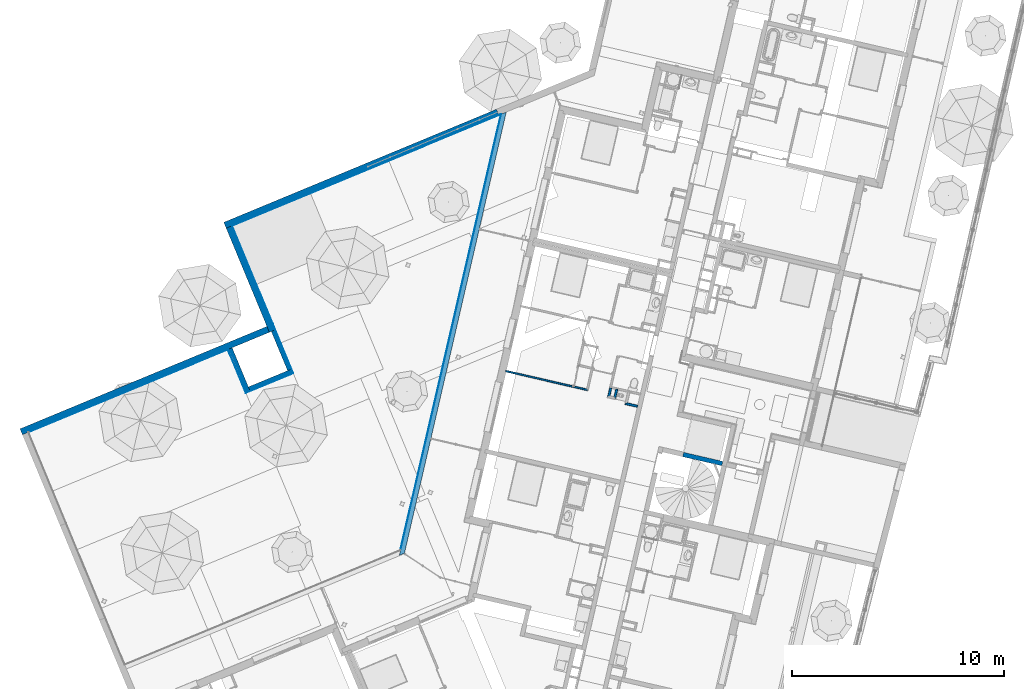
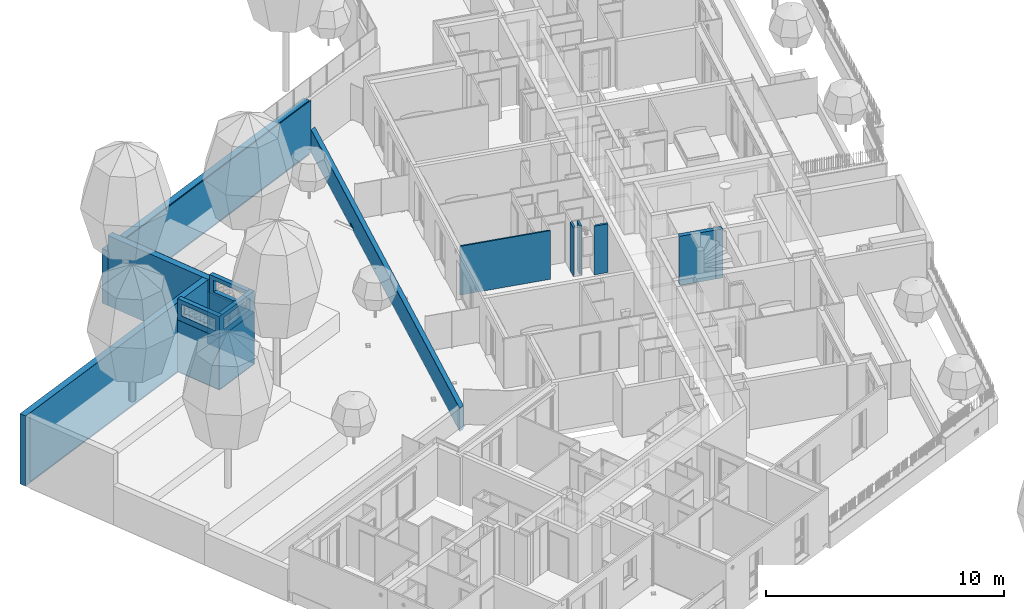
# One storey, part 46 of 119: 19 walls, 3 openings.
"""IFC2X3 building model written with IfcOpenShell, lengths in metres."""

from ifc_helpers import new_model, entity, si_unit, converted_unit, derived_unit, money_unit, direction, frame, origin_with_axes, place, context, subcontext, project, spatial, faceted_brep, material, material_list, type_object, element, save


model = new_model("IFC2X3")

# Units and contexts
model_context = context("Model", 3, precision=1e-05, world=origin_with_axes(), true_north=direction((0.0, 1.0)))
body_context = subcontext(model_context, "Body", "Model", "MODEL_VIEW")
ifc_project = project(units=[si_unit("LENGTHUNIT", "METRE"), si_unit("AREAUNIT", "SQUARE_METRE"), si_unit("VOLUMEUNIT", "CUBIC_METRE"), converted_unit("PLANEANGLEUNIT", "DEGREE", entity("IfcPlaneAngleMeasure", 0.0174532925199), si_unit("PLANEANGLEUNIT", "RADIAN"), dimensions=[0, 0, 0, 0, 0, 0, 0]), si_unit("SOLIDANGLEUNIT", "STERADIAN"), money_unit("EUR"), converted_unit("TIMEUNIT", "Year", entity("IfcTimeMeasure", 31556926.0), si_unit("TIMEUNIT", "SECOND"), dimensions=[0, 0, 1, 0, 0, 0, 0]), si_unit("MASSUNIT", "GRAM", prefix="KILO"), si_unit("THERMODYNAMICTEMPERATUREUNIT", "DEGREE_CELSIUS"), si_unit("LUMINOUSINTENSITYUNIT", "LUMEN"), si_unit("ENERGYUNIT", "JOULE", prefix="MEGA"), derived_unit("THERMALCONDUCTANCEUNIT", [(si_unit("POWERUNIT", "WATT"), 1), (si_unit("LENGTHUNIT", "METRE"), -1), (si_unit("THERMODYNAMICTEMPERATUREUNIT", "KELVIN"), -1)]), derived_unit("SPECIFICHEATCAPACITYUNIT", [(si_unit("ENERGYUNIT", "JOULE"), 1), (si_unit("MASSUNIT", "GRAM", prefix="KILO"), -1), (si_unit("THERMODYNAMICTEMPERATUREUNIT", "KELVIN"), -1)]), derived_unit("MASSDENSITYUNIT", [(si_unit("MASSUNIT", "GRAM", prefix="KILO"), 1), (si_unit("VOLUMEUNIT", "CUBIC_METRE"), -1)])], contexts=[model_context])

# Site, building, storey
site_placement = place(None, origin_with_axes())
site = spatial("IfcSite", under=ifc_project, at=site_placement, Name="Site", CompositionType="ELEMENT")
building_placement = place(site_placement, origin_with_axes())
building = spatial("IfcBuilding", under=site, at=building_placement, Name="Bâtiment", CompositionType="ELEMENT")
storey_placement = place(building_placement, origin_with_axes())
storey = spatial("IfcBuildingStorey", under=building, at=storey_placement, Name="Rez-de-chaussée", CompositionType="ELEMENT", Elevation=0.0)

# Walls
ifc_material_1 = material(Name="Béton")
wall_type_1 = type_object("IfcWallType", Name="Béton 300", PredefinedType="USERDEFINED")
wall_1_placement = place(storey_placement, frame((-28.8756217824, -0.212480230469, -0.03), z_axis=(0.0, 0.0, 1.0), x_axis=(-0.923701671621, -0.383112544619, 0.0)))
element("IfcWall", 1, at=wall_1_placement, inside=storey, type_object=wall_type_1, material=ifc_material_1, Name="Voile projeté béton par passes alternées", ObjectType="SOLIDWALL", context=body_context, shape_type="Brep", body=[
    faceted_brep([(0.30000038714, -0.3, 3.6), (12.9032672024, -0.3, 3.6), (12.9032672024, 0.0, 3.6), (0.3, 0.0, 3.6), (0.30000038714, -0.3, 0.0), (12.9032672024, -0.3, 0.0), (12.9032672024, 0.0, 0.0), (0.3, 0.0, 0.0)], [[[0, 1, 2, 3]], [[4, 5, 1, 0]], [[6, 2, 1, 5]], [[3, 2, 6, 7]], [[7, 4, 0, 3]], [[7, 6, 5, 4]]]),
])
wall_2_placement = place(storey_placement, frame((-30.9110132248, 4.69492269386, -0.03), z_axis=(0.0, 0.0, 1.0), x_axis=(0.383113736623, -0.923701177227, 0.0)))
element("IfcWall", 2, at=wall_2_placement, inside=storey, type_object=wall_type_1, material=ifc_material_1, Name="Voile projeté béton par passes alternées", ObjectType="SOLIDWALL", context=body_context, shape_type="Brep", body=[
    faceted_brep([(5.31276027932, 0.0, 3.6), (5.31276027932, 0.0, 0.0), (0.0, 0.0, 0.0), (0.0, 0.0, 2.8), (0.0, 0.0, 3.6), (5.31275989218, -0.3, 3.6), (5.31275989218, -0.3, 0.0), (-2.42320261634e-08, -0.3, 0.0), (-2.42320261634e-08, -0.3, 2.8), (0.0, -0.3, 3.6)], [[[0, 1, 2, 3, 4]], [[5, 6, 1, 0]], [[1, 6, 7, 2]], [[2, 7, 8, 3]], [[9, 4, 3, 8]], [[9, 5, 0, 4]], [[5, 9, 8, 7, 6]]]),
])
wall_3_placement = place(storey_placement, frame((-30.9110132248, 4.69492269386, -0.03), z_axis=(0.0, 0.0, 1.0), x_axis=(0.923701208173, 0.383113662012, 0.0)))
element("IfcWall", 3, at=wall_3_placement, inside=storey, type_object=wall_type_1, material=ifc_material_1, Name="Voile projeté béton par passes alternées", ObjectType="SOLIDWALL", context=body_context, shape_type="Brep", body=[
    faceted_brep([(-0.300000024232, 0.3, 0.0), (13.616509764, 0.3, 0.0), (13.616509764, 0.0, 0.0), (-0.3, 0.0, 0.0), (-0.300000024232, 0.3, 2.8), (13.616509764, 0.3, 2.8), (13.616509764, 0.0, 2.8), (-0.3, 0.0, 2.8)], [[[0, 1, 2, 3]], [[4, 5, 1, 0]], [[2, 1, 5, 6]], [[3, 2, 6, 7]], [[4, 0, 3, 7]], [[7, 6, 5, 4]]]),
])
ifc_material_2 = material(Name="Finition int - Plaque de plâtre")
ifc_material_3 = material(Name="Isolation - Laine de roche")
ifc_material_list_1 = material_list([ifc_material_2, ifc_material_3, ifc_material_2])
wall_type_2 = type_object("IfcWallType", Name="3 - Cloison 72mm Placostil 74", PredefinedType="USERDEFINED")
wall_4_placement = place(storey_placement, frame((-14.1354559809, -3.08704775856, 0.0), z_axis=(0.0, 0.0, 1.0), x_axis=(-0.974387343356, 0.224876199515, 0.0)))
element("IfcWall", 4, at=wall_4_placement, inside=storey, type_object=wall_type_2, material=ifc_material_list_1, Name="Cloison Placostil 72/48", ObjectType="PARTITIONING", context=body_context, shape_type="Brep", body=[
    faceted_brep([(0.0, -0.013, 2.5), (3.98328995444, -0.013, 2.5), (3.98328995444, 0.0, 2.5), (0.0, 0.0, 2.5), (0.0, -0.013, 0.0), (3.98328995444, -0.013, 0.0), (3.98328995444, 0.0, 0.0), (0.0, 0.0, 0.0)], [[[0, 1, 2, 3]], [[4, 5, 1, 0]], [[2, 1, 5, 6]], [[3, 2, 6, 7]], [[4, 0, 3, 7]], [[7, 6, 5, 4]]]),
    faceted_brep([(0.0129999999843, -0.061, 2.5), (3.98328995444, -0.061, 2.5), (3.98328995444, -0.013, 2.5), (0.0129999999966, -0.013, 2.5), (0.0129999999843, -0.061, 0.0), (3.98328995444, -0.061, 0.0), (3.98328995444, -0.013, 0.0), (0.0129999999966, -0.013, 0.0)], [[[0, 1, 2, 3]], [[4, 5, 1, 0]], [[2, 1, 5, 6]], [[3, 2, 6, 7]], [[4, 0, 3, 7]], [[7, 6, 5, 4]]]),
    faceted_brep([(0.735000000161, -0.074, 2.5), (3.98328995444, -0.074, 2.5), (3.98328995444, -0.061, 2.5), (0.735000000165, -0.061, 2.5), (0.735000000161, -0.074, 0.0), (3.98328995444, -0.074, 0.0), (3.98328995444, -0.061, 0.0), (0.735000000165, -0.061, 0.0)], [[[0, 1, 2, 3]], [[4, 5, 1, 0]], [[2, 1, 5, 6]], [[3, 2, 6, 7]], [[4, 0, 3, 7]], [[7, 6, 5, 4]]]),
    faceted_brep([(0.687000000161, -0.074, 2.5), (0.687000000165, -0.061, 2.5), (0.0609999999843, -0.061, 2.5), (0.0609999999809, -0.074, 2.5), (0.687000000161, -0.074, 0.0), (0.687000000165, -0.061, 0.0), (0.0609999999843, -0.061, 0.0), (0.0609999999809, -0.074, 0.0)], [[[0, 1, 2, 3]], [[1, 0, 4, 5]], [[1, 5, 6, 2]], [[7, 3, 2, 6]], [[4, 0, 3, 7]], [[5, 4, 7, 6]]]),
])
ifc_material_list_2 = material_list([ifc_material_2, ifc_material_2, ifc_material_3, ifc_material_2, ifc_material_2])
wall_type_3 = type_object("IfcWallType", Name="3 - Cloison Gaine Technique 98mm 100", PredefinedType="USERDEFINED")
wall_5_placement = place(storey_placement, frame((-13.1110577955, -2.94857065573, 0.0), z_axis=(0.0, 0.0, 1.0), x_axis=(-0.224876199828, -0.974387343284, 0.0)))
element("IfcWall", 5, at=wall_5_placement, inside=storey, type_object=wall_type_3, material=ifc_material_list_2, Name="Cloison 98 isolée", ObjectType="PARTITIONING", context=body_context, shape_type="Brep", body=[
    faceted_brep([(0.367186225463, 0.087, 0.0), (0.0, 0.087, 0.0), (0.0, 0.1, 0.0), (0.367186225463, 0.1, 0.0), (0.367186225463, 0.087, 2.5), (0.0, 0.087, 2.5), (0.0, 0.1, 2.5), (0.367186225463, 0.1, 2.5)], [[[0, 1, 2, 3]], [[4, 5, 1, 0]], [[1, 5, 6, 2]], [[3, 2, 6, 7]], [[7, 4, 0, 3]], [[7, 6, 5, 4]]]),
    faceted_brep([(0.380186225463, 0.074, 0.0), (0.0, 0.074, 0.0), (0.0, 0.087, 0.0), (0.380186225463, 0.087, 0.0), (0.380186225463, 0.074, 2.5), (0.0, 0.074, 2.5), (0.0, 0.087, 2.5), (0.380186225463, 0.087, 2.5)], [[[0, 1, 2, 3]], [[4, 5, 1, 0]], [[1, 5, 6, 2]], [[3, 2, 6, 7]], [[7, 4, 0, 3]], [[7, 6, 5, 4]]]),
    faceted_brep([(0.393186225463, 0.026, 0.0), (0.0, 0.026, 0.0), (0.0, 0.074, 0.0), (0.393186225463, 0.074, 0.0), (0.393186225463, 0.026, 2.5), (0.0, 0.026, 2.5), (0.0, 0.074, 2.5), (0.393186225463, 0.074, 2.5)], [[[0, 1, 2, 3]], [[4, 5, 1, 0]], [[1, 5, 6, 2]], [[3, 2, 6, 7]], [[7, 4, 0, 3]], [[7, 6, 5, 4]]]),
    faceted_brep([(0.0, 0.013, 0.0), (0.0, 0.026, 0.0), (0.441186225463, 0.026, 0.0), (0.441186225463, 0.013, 0.0), (0.0, 0.013, 2.5), (0.0, 0.026, 2.5), (0.441186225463, 0.026, 2.5), (0.441186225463, 0.013, 2.5)], [[[0, 1, 2, 3]], [[4, 5, 1, 0]], [[1, 5, 6, 2]], [[7, 3, 2, 6]], [[4, 0, 3, 7]], [[5, 4, 7, 6]]]),
    faceted_brep([(0.0, 0.0, 0.0), (0.0, 0.013, 0.0), (0.454186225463, 0.013, 0.0), (0.454186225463, 0.0, 0.0), (0.0, 0.0, 2.5), (0.0, 0.013, 2.5), (0.454186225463, 0.013, 2.5), (0.454186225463, 0.0, 2.5)], [[[0, 1, 2, 3]], [[4, 5, 1, 0]], [[1, 5, 6, 2]], [[7, 3, 2, 6]], [[4, 0, 3, 7]], [[5, 4, 7, 6]]]),
])
wall_6_placement = place(storey_placement, frame((-12.837976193, -3.49106105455, 0.0), z_axis=(0.0, 0.0, 1.0), x_axis=(0.236989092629, 0.971512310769, 0.0)))
element("IfcWall", 6, at=wall_6_placement, inside=storey, type_object=wall_type_3, material=ifc_material_list_2, Name="Cloison 98 isolée", ObjectType="PARTITIONING", context=body_context, shape_type="Brep", body=[
    faceted_brep([(0.465977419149, 0.1, 0.0), (0.466139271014, 0.087, 0.0), (0.0989245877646, 0.087, 0.0), (0.0987627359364, 0.1, 0.0), (0.465977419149, 0.1, 2.5), (0.466139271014, 0.087, 2.5), (0.0989245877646, 0.087, 2.5), (0.0987627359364, 0.1, 2.5)], [[[0, 1, 2, 3]], [[1, 0, 4, 5]], [[1, 5, 6, 2]], [[7, 3, 2, 6]], [[4, 0, 3, 7]], [[5, 4, 7, 6]]]),
    faceted_brep([(0.479140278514, 0.087, 0.0), (0.479302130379, 0.074, 0.0), (0.0860854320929, 0.074, 0.0), (0.0859235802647, 0.087, 0.0), (0.479140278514, 0.087, 2.5), (0.479302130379, 0.074, 2.5), (0.0860854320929, 0.074, 2.5), (0.0859235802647, 0.087, 2.5)], [[[0, 1, 2, 3]], [[1, 0, 4, 5]], [[1, 5, 6, 2]], [[7, 3, 2, 6]], [[4, 0, 3, 7]], [[5, 4, 7, 6]]]),
    faceted_brep([(0.479302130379, 0.074, 0.0), (0.479899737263, 0.026, 0.0), (0.0736820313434, 0.026, 0.0), (0.0730844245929, 0.074, 0.0), (0.479302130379, 0.074, 2.5), (0.479899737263, 0.026, 2.5), (0.0736820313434, 0.026, 2.5), (0.0730844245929, 0.074, 2.5)], [[[0, 1, 2, 3]], [[1, 0, 4, 5]], [[1, 5, 6, 2]], [[7, 3, 2, 6]], [[4, 0, 3, 7]], [[5, 4, 7, 6]]]),
    faceted_brep([(0.479899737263, 0.026, 0.0), (0.480061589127, 0.013, 0.0), (0.0258401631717, 0.013, 0.0), (0.0256783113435, 0.026, 0.0), (0.479899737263, 0.026, 2.5), (0.480061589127, 0.013, 2.5), (0.0258401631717, 0.013, 2.5), (0.0256783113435, 0.026, 2.5)], [[[0, 1, 2, 3]], [[1, 0, 4, 5]], [[1, 5, 6, 2]], [[7, 3, 2, 6]], [[4, 0, 3, 7]], [[5, 4, 7, 6]]]),
    faceted_brep([(0.467060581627, 0.013, 0.0), (0.467222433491, 0.0, 0.0), (0.0130010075, 0.0, 0.0), (0.0128391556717, 0.013, 0.0), (0.467060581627, 0.013, 2.5), (0.467222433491, 0.0, 2.5), (0.0130010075, 0.0, 2.5), (0.0128391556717, 0.013, 2.5)], [[[0, 1, 2, 3]], [[1, 0, 4, 5]], [[1, 5, 6, 2]], [[7, 3, 2, 6]], [[4, 0, 3, 7]], [[5, 4, 7, 6]]]),
])
wall_7_placement = place(storey_placement, frame((-11.808762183, -3.86489545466, 0.0), z_axis=(0.0, 0.0, 1.0), x_axis=(-0.974387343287, 0.224876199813, 0.0)))
element("IfcWall", 7, at=wall_7_placement, inside=storey, type_object=wall_type_3, material=ifc_material_list_2, Name="Cloison 98 isolée", ObjectType="PARTITIONING", context=body_context, shape_type="Brep", body=[
    faceted_brep([(0.599999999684, -0.013, 2.5), (0.599999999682, 0.0, 2.5), (0.0, 0.0, 2.5), (0.0, -0.013, 2.5), (0.599999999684, -0.013, 0.0), (0.599999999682, 0.0, 0.0), (0.0, 0.0, 0.0), (0.0, -0.013, 0.0)], [[[0, 1, 2, 3]], [[1, 0, 4, 5]], [[1, 5, 6, 2]], [[7, 3, 2, 6]], [[4, 0, 3, 7]], [[5, 4, 7, 6]]]),
    faceted_brep([(0.586999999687, -0.026, 2.5), (0.586999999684, -0.013, 2.5), (0.0, -0.013, 2.5), (0.0, -0.026, 2.5), (0.586999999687, -0.026, 0.0), (0.586999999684, -0.013, 0.0), (0.0, -0.013, 0.0), (0.0, -0.026, 0.0)], [[[0, 1, 2, 3]], [[1, 0, 4, 5]], [[1, 5, 6, 2]], [[7, 3, 2, 6]], [[4, 0, 3, 7]], [[5, 4, 7, 6]]]),
    faceted_brep([(0.573999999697, -0.074, 2.5), (0.573999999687, -0.026, 2.5), (0.0, -0.026, 2.5), (0.0, -0.074, 2.5), (0.573999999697, -0.074, 0.0), (0.573999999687, -0.026, 0.0), (0.0, -0.026, 0.0), (0.0, -0.074, 0.0)], [[[0, 1, 2, 3]], [[1, 0, 4, 5]], [[1, 5, 6, 2]], [[7, 3, 2, 6]], [[4, 0, 3, 7]], [[5, 4, 7, 6]]]),
    faceted_brep([(0.5259999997, -0.087, 2.5), (0.525999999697, -0.074, 2.5), (0.0, -0.074, 2.5), (0.0, -0.087, 2.5), (0.5259999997, -0.087, 0.0), (0.525999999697, -0.074, 0.0), (0.0, -0.074, 0.0), (0.0, -0.087, 0.0)], [[[0, 1, 2, 3]], [[1, 0, 4, 5]], [[1, 5, 6, 2]], [[7, 3, 2, 6]], [[4, 0, 3, 7]], [[5, 4, 7, 6]]]),
    faceted_brep([(0.512999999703, -0.1, 2.5), (0.5129999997, -0.087, 2.5), (0.0, -0.087, 2.5), (0.0, -0.1, 2.5), (0.512999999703, -0.1, 0.0), (0.5129999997, -0.087, 0.0), (0.0, -0.087, 0.0), (0.0, -0.1, 0.0)], [[[0, 1, 2, 3]], [[1, 0, 4, 5]], [[1, 5, 6, 2]], [[7, 3, 2, 6]], [[4, 0, 3, 7]], [[5, 4, 7, 6]]]),
])
ifc_material_4 = material(Name="Finition int - Enduit plâtre")
ifc_material_list_3 = material_list([ifc_material_4, ifc_material_1])
wall_type_4 = type_object("IfcWallType", Name="2 - Murs Béton 20 + Enduit 1 Face  210", PredefinedType="USERDEFINED")
wall_8_placement = place(storey_placement, frame((-7.77362621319, -6.41391833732, 0.0), z_axis=(0.0, 0.0, 1.0), x_axis=(-0.974387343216, 0.224876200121, 0.0)))
element("IfcWall", 8, at=wall_8_placement, inside=storey, type_object=wall_type_4, material=ifc_material_list_3, Name="M_Ext-009", ObjectType="SOLIDWALL", context=body_context, shape_type="Brep", body=[
    faceted_brep([(0.309940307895, 0.21, 0.0), (0.317079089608, 0.2, 0.0), (0.0, 0.2, 0.0), (0.0, 0.21, 0.0), (0.309940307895, 0.21, 2.52), (0.317079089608, 0.2, 2.52), (0.0, 0.2, 2.52), (0.0, 0.21, 2.52)], [[[0, 1, 2, 3]], [[1, 0, 4, 5]], [[1, 5, 6, 2]], [[7, 3, 2, 6]], [[4, 0, 3, 7]], [[5, 4, 7, 6]]]),
    faceted_brep([(0.400861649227, 0.21, 0.0), (1.90000000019, 0.21, 0.0), (1.90000000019, 0.2, 0.0), (0.408000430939, 0.2, 0.0), (0.400861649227, 0.21, 2.52), (1.90000000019, 0.21, 2.52), (1.90000000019, 0.2, 2.52), (0.408000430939, 0.2, 2.52)], [[[0, 1, 2, 3]], [[4, 5, 1, 0]], [[2, 1, 5, 6]], [[3, 2, 6, 7]], [[4, 0, 3, 7]], [[7, 6, 5, 4]]]),
    faceted_brep([(1.90000000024, 6.38959996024e-10, 2.51), (1.01006314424e-10, 0.0, 2.51), (0.0, 0.0, 0.0), (1.90000000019, 0.0, 0.0), (1.90000000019, 0.199999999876, 2.51), (0.0, 0.199999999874, 2.51), (0.0, 0.2, 0.0), (1.90000000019, 0.2, 0.0)], [[[0, 1, 2, 3]], [[1, 0, 4, 5]], [[1, 5, 6, 2]], [[6, 7, 3, 2]], [[4, 0, 3, 7]], [[4, 7, 6, 5]]]),
])

# Wall, opening
ifc_material_list_4 = material_list([ifc_material_1, ifc_material_4])
wall_9_placement = place(storey_placement, frame((-30.9077654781, -1.0553278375, -0.03), z_axis=(0.0, 0.0, 1.0), x_axis=(0.383112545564, -0.923701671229, 0.0)))
wall_9 = element("IfcWall", 9, at=wall_9_placement, inside=storey, type_object=wall_type_4, material=ifc_material_list_4, Name="Voile béton banché 20cm", ObjectType="SOLIDWALL", context=body_context, shape_type="Brep", body=[
    faceted_brep([(2.2, -0.2, 0.03), (2.2, 0.0, 0.03), (2.2, 0.0, 3.8), (2.2, -0.2, 3.8), (2.0, 0.0, 0.03), (-2.12561879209e-09, -0.2, 0.03), (0.0, 0.0, 0.03), (-1.21661081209e-09, 0.0, 3.6), (0.0, 0.0, 3.80000000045), (2.0, 0.0, 3.59035323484), (0.2, 0.0, 3.59035323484), (0.2, 0.0, 2.99035323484), (2.0, 0.0, 2.99035323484), (0.0, -0.2, 3.80000000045), (-1.42110323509e-09, -0.2, 3.6), (2.0, -0.2, 3.59035323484), (2.0, -0.2, 2.99035323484), (0.2, -0.2, 2.99035323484), (0.2, -0.2, 3.59035323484)], [[[0, 1, 2, 3]], [[4, 1, 0, 5, 6]], [[4, 6, 7, 8, 2, 1], [9, 10, 11, 12]], [[13, 3, 2, 8]], [[5, 0, 3, 13, 14], [15, 16, 17, 18]], [[6, 5, 14, 7]], [[8, 7, 14, 13]], [[15, 18, 10, 9]], [[18, 17, 11, 10]], [[17, 16, 12, 11]], [[16, 15, 9, 12]]]),
    faceted_brep([(2.21, -0.21, 0.03), (2.21, -0.2, 0.03), (2.21, -0.2, 3.8), (2.21, -0.21, 3.8), (-2.12561879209e-09, -0.2, 0.03), (-2.23189822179e-09, -0.21, 0.03), (-1.42110323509e-09, -0.2, 3.6), (0.0, -0.2, 3.80000000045), (2.0, -0.2, 3.59035323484), (0.2, -0.2, 3.59035323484), (0.2, -0.2, 2.99035323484), (2.0, -0.2, 2.99035323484), (0.0, -0.21, 3.80000000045), (-1.4313261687e-09, -0.21, 3.6), (2.0, -0.21, 3.59035323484), (2.0, -0.21, 2.99035323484), (0.2, -0.21, 2.99035323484), (0.2, -0.21, 3.59035323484)], [[[0, 1, 2, 3]], [[4, 1, 0, 5]], [[1, 4, 6, 7, 2], [8, 9, 10, 11]], [[2, 7, 12, 3]], [[5, 0, 3, 12, 13], [14, 15, 16, 17]], [[4, 5, 13, 6]], [[7, 6, 13, 12]], [[14, 17, 9, 8]], [[17, 16, 10, 9]], [[16, 15, 11, 10]], [[15, 14, 8, 11]]]),
])
opening_1_placement = place(wall_9_placement, frame((10.8663446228, 28.9538639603, 0.03), z_axis=(0.0, 0.0, 1.0), x_axis=(0.383112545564, 0.923701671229, 0.0)))
element("IfcOpeningElement", 10, at=opening_1_placement, cuts=wall_9, Name="PERCEMENT-004", context=body_context, shape_type="Brep", body=[
    faceted_brep([(-32.0619452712, -1.75055312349, 2.96035323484), (-32.0619452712, -1.75055312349, 3.56035323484), (-29.1813379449, -0.555798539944, 3.56035323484), (-29.1813379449, -0.555798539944, 2.96035323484), (-32.0619452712, -3.69923423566, 2.96035323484), (-32.0619452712, -3.69923423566, 3.56035323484), (-29.1813379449, -2.50447965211, 3.56035323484), (-29.1813379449, -2.50447965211, 2.96035323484)], [[[0, 1, 2, 3]], [[0, 4, 5, 1]], [[1, 5, 6, 2]], [[3, 2, 6, 7]], [[4, 0, 3, 7]], [[5, 4, 7, 6]]]),
])

wall_10_placement = place(storey_placement, frame((-30.141540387, -2.90273117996, -0.03), z_axis=(0.0, 0.0, 1.0), x_axis=(0.923701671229, 0.383112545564, 0.0)))
wall_10 = element("IfcWall", 11, at=wall_10_placement, inside=storey, type_object=wall_type_4, material=ifc_material_list_4, Name="Voile béton banché 20cm", ObjectType="SOLIDWALL", context=body_context, shape_type="Brep", body=[
    faceted_brep([(0.0, -0.2, 0.03), (2.2, -0.2, 0.03), (2.2, -0.2, 3.8), (0.0, -0.2, 3.8), (1.89999756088, -0.2, 3.60000387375), (1.89999756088, -0.2, 3.00000387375), (0.0999975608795, -0.2, 3.00000387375), (0.0999975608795, -0.2, 3.60000387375), (2.2, 0.0, 0.03), (0.0, 0.0, 0.03), (2.0, 0.0, 0.03), (2.2, 0.0, 3.80000000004), (0.0, 0.0, 3.80000000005), (1.89999756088, 0.0, 3.60000387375), (1.89999756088, 0.0, 3.00000387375), (0.0999975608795, 0.0, 3.00000387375), (0.0999975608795, 0.0, 3.60000387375)], [[[0, 1, 2, 3], [4, 5, 6, 7]], [[8, 1, 0, 9, 10]], [[1, 8, 11, 2]], [[3, 2, 11, 12]], [[9, 0, 3, 12]], [[13, 14, 5, 4]], [[14, 15, 6, 5]], [[15, 16, 7, 6]], [[16, 13, 4, 7]], [[10, 9, 12, 11, 8], [13, 16, 15, 14]]]),
    faceted_brep([(-0.2, -0.21, 0.03), (2.21, -0.21, 0.03), (2.21, -0.21, 3.8), (-0.2, -0.21, 3.8), (1.89999756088, -0.21, 3.60000387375), (1.89999756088, -0.21, 3.00000387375), (0.0999975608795, -0.21, 3.00000387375), (0.0999975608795, -0.21, 3.60000387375), (2.21, -0.2, 0.03), (-0.2, -0.2, 0.03), (2.21, -0.2, 3.8), (-0.2, -0.2, 3.8), (1.89999756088, -0.2, 3.60000387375), (1.89999756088, -0.2, 3.00000387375), (0.0999975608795, -0.2, 3.00000387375), (0.0999975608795, -0.2, 3.60000387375)], [[[0, 1, 2, 3], [4, 5, 6, 7]], [[8, 1, 0, 9]], [[1, 8, 10, 2]], [[10, 11, 3, 2]], [[9, 0, 3, 11]], [[12, 13, 5, 4]], [[13, 14, 6, 5]], [[14, 15, 7, 6]], [[15, 12, 4, 7]], [[8, 9, 11, 10], [12, 15, 14, 13]]]),
])
opening_2_placement = place(wall_10_placement, frame((28.9538639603, -8.86634462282, 0.03), z_axis=(0.0, 0.0, 1.0), x_axis=(0.923701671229, -0.383112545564, 0.0)))
element("IfcOpeningElement", 12, at=opening_2_placement, cuts=wall_10, Name="PERCEMENT-004", context=body_context, shape_type="Brep", body=[
    faceted_brep([(-29.5545778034, -4.056910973, 2.97000387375), (-29.5545778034, -4.056910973, 3.57000387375), (-30.7493323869, -1.17630364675, 3.57000387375), (-30.7493323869, -1.17630364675, 2.97000387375), (-27.6058966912, -4.056910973, 2.97000387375), (-27.6058966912, -4.056910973, 3.57000387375), (-28.8006512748, -1.17630364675, 3.57000387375), (-28.8006512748, -1.17630364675, 2.97000387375)], [[[0, 1, 2, 3]], [[0, 4, 5, 1]], [[1, 5, 6, 2]], [[3, 2, 6, 7]], [[4, 0, 3, 7]], [[5, 4, 7, 6]]]),
])

wall_11_placement = place(storey_placement, frame((-28.2941370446, -2.13650608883, -0.03), z_axis=(0.0, 0.0, 1.0), x_axis=(-0.383112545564, 0.923701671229, 0.0)))
wall_11 = element("IfcWall", 13, at=wall_11_placement, inside=storey, type_object=wall_type_4, material=ifc_material_list_4, Name="Voile béton banché 20cm", ObjectType="SOLIDWALL", context=body_context, shape_type="Brep", body=[
    faceted_brep([(0.0, 0.0, 0.0299999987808), (0.0, -0.2, 0.0299999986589), (0.0, -0.2, 2.99035323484), (0.0, 0.0, 2.99035323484), (1.99999999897, -0.200000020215, 0.03), (2.0, 0.0, 0.03), (1.99999999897, -0.200000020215, 3.6), (2.0, -0.2, 3.80000000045), (0.0, -0.2, 3.8), (0.0, -0.2, 3.59035323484), (1.80000001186, -0.2, 3.59035323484), (1.80000001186, -0.2, 2.99035323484), (1.80000001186, 0.0, 2.99035323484), (1.80000001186, 0.0, 3.59035323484), (0.0, 0.0, 3.59035323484), (0.0, 0.0, 3.8), (2.0, 0.0, 3.80000000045), (1.99999999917, 0.0, 3.6)], [[[0, 1, 2, 3]], [[4, 1, 0, 5]], [[1, 4, 6, 7, 8, 9, 10, 11, 2]], [[12, 3, 2, 11]], [[5, 0, 3, 12, 13, 14, 15, 16, 17]], [[4, 5, 17, 6]], [[7, 6, 17, 16]], [[16, 15, 8, 7]], [[14, 9, 8, 15]], [[10, 9, 14, 13]], [[13, 12, 11, 10]]]),
    faceted_brep([(1.99999999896, -0.21, 0.12), (2.29999999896, -0.21, 0.12), (2.29999999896, -0.21, 3.0), (2.29999999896, -0.21, 3.53), (2.29999999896, -0.21, 3.6), (2.0, -0.21, 3.6), (2.0, -0.21, 3.80000000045), (-0.2, -0.21, 3.8), (-0.2, -0.21, 0.0299999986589), (1.99999999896, -0.21, 0.03), (1.99999999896, -0.21, 0.04), (1.18561160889e-08, -0.21, 3.59035323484), (1.80000001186, -0.21, 3.59035323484), (1.80000001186, -0.21, 2.99035323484), (1.18561160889e-08, -0.21, 2.99035323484), (1.99999999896, -0.207060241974, 0.12), (2.29999999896, -0.206661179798, 0.12), (2.29999999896, -0.206661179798, 0.04), (2.29999999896, -0.206661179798, 0.03), (2.29999999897, -0.199999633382, 0.0299999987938), (2.29999999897, -0.2, 3.0), (2.29999999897, -0.2, 3.53), (2.29999999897, -0.2, 3.6), (2.0, -0.2, 3.6), (2.0, -0.2, 3.80000000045), (-0.2, -0.2, 3.8), (-0.2, -0.2, 0.0299999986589), (1.99999999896, -0.207060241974, 0.03), (1.99999999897, -0.200000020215, 0.03), (2.00476189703, -0.200000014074, 0.0299999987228), (2.001400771, -0.207058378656, 0.03), (1.99999999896, -0.207060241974, 0.04), (1.18561160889e-08, -0.2, 3.59035323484), (1.80000001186, -0.2, 3.59035323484), (1.80000001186, -0.2, 2.99035323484), (1.18561160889e-08, -0.2, 2.99035323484)], [[[0, 1, 2, 3, 4, 5, 6, 7, 8, 9, 10], [11, 12, 13, 14]], [[1, 0, 15, 16]], [[16, 17, 18, 19, 20, 2, 1]], [[3, 2, 20, 21]], [[4, 3, 21, 22]], [[22, 23, 5, 4]], [[6, 5, 23, 24]], [[24, 25, 7, 6]], [[26, 8, 7, 25]], [[27, 9, 8, 26, 28, 29, 30]], [[31, 10, 9, 27]], [[0, 10, 31, 15]], [[32, 33, 12, 11]], [[33, 34, 13, 12]], [[34, 35, 14, 13]], [[35, 32, 11, 14]], [[31, 17, 16, 15]], [[17, 31, 27, 30, 18]], [[18, 30, 29, 19]], [[19, 29, 28, 26, 25, 24, 23, 22, 21, 20], [32, 35, 34, 33]]]),
])
opening_3_placement = place(wall_11_placement, frame((-8.86634462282, -26.9538639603, 0.03), z_axis=(0.0, 0.0, 1.0), x_axis=(-0.383112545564, -0.923701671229, 0.0)))
element("IfcOpeningElement", 14, at=opening_3_placement, cuts=wall_11, Name="PERCEMENT-004", context=body_context, shape_type="Brep", body=[
    faceted_brep([(-27.1399572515, -1.65780091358, 2.96035323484), (-27.1399572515, -1.65780091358, 3.56035323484), (-30.0205645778, -2.85255549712, 3.56035323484), (-30.0205645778, -2.85255549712, 2.96035323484), (-27.1399572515, 0.290880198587, 2.96035323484), (-27.1399572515, 0.290880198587, 3.56035323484), (-30.0205645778, -0.90387438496, 3.56035323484), (-30.0205645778, -0.90387438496, 2.96035323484)], [[[0, 1, 2, 3]], [[0, 4, 5, 1]], [[1, 5, 6, 2]], [[3, 2, 6, 7]], [[4, 0, 3, 7]], [[5, 4, 7, 6]]]),
])

# Walls
ifc_material_5 = material(Name="Finition ext - Crépis")
ifc_material_list_5 = material_list([ifc_material_5, ifc_material_1])
wall_type_5 = type_object("IfcWallType", Name="1 - Mur BETON 20+ ravalement 1 face 215", PredefinedType="ELEMENTEDWALL")
wall_12_placement = place(storey_placement, frame((-17.9813232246, 10.0576318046, 0.0), z_axis=(0.0, 0.0, 1.0), x_axis=(-0.224876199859, -0.974387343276, 0.0)))
element("IfcWall", 15, at=wall_12_placement, inside=storey, type_object=wall_type_5, material=ifc_material_list_5, Name="M_Ext-010", ObjectType="ELEMENTEDWALL", context=body_context, shape_type="Brep", body=[
    faceted_brep([(0.0, 0.0, 1.2), (0.0107081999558, -0.015, 1.2), (21.3792029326, -0.015, 1.2), (21.36849476, 0.0, 1.2), (0.0, 0.0, 0.0), (0.0107081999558, -0.015, 0.0), (21.3792029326, -0.015, 0.0), (21.36849476, 0.0, 0.0)], [[[0, 1, 2, 3]], [[0, 4, 5, 1]], [[1, 5, 6, 2]], [[6, 7, 3, 2]], [[4, 0, 3, 7]], [[5, 4, 7, 6]]]),
    faceted_brep([(6.23067241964, -0.215, 0.0), (6.27645261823, -0.182318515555, 0.0), (6.16024891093, -0.01954045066, 0.0), (5.88644932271, -0.215, 0.0), (0.153484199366, -0.215, 0.0), (0.0107081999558, -0.015, 0.0), (21.3607729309, -0.015, 0.0), (21.5035485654, -0.215, 0.0), (6.23067538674, -0.214997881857, 0.01), (6.26569240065, -0.19, 0.01), (6.26569240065, -0.19, 0.05), (6.23067538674, -0.214997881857, 0.05), (6.23067241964, -0.215, 0.25), (6.27645261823, -0.182318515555, 0.25), (6.16024891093, -0.01954045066, 0.25), (5.88644932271, -0.215, 0.25), (5.88645235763, -0.214997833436, 0.05), (5.92146930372, -0.19, 0.05), (5.92146930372, -0.19, 0.01), (5.88645235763, -0.214997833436, 0.01), (0.153488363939, -0.214997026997, 0.01), (0.13564350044, -0.19, 0.01), (0.13564350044, -0.19, 0.05), (0.153488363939, -0.214997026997, 0.05), (0.153484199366, -0.215, 1.2), (0.0107081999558, -0.015, 1.2), (21.3607729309, -0.015, 1.2), (21.5035485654, -0.215, 1.2), (21.2885318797, -0.215, 0.05), (21.2885318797, -0.215, 0.01), (21.2706849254, -0.19, 0.01), (21.2706849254, -0.19, 0.05)], [[[0, 1, 2, 3, 4, 5, 6, 7]], [[1, 0, 8, 9, 10, 11, 12, 13]], [[2, 1, 13, 14]], [[3, 2, 14, 15, 16, 17, 18, 19]], [[3, 19, 20, 4]], [[4, 20, 21, 22, 23, 24, 25, 5]], [[6, 5, 25, 26]], [[27, 7, 6, 26]], [[8, 0, 7, 27, 24, 23, 16, 15, 12, 11, 28, 29]], [[9, 8, 29, 30]], [[10, 9, 30, 31]], [[11, 10, 31, 28]], [[12, 15, 14, 13]], [[17, 16, 23, 22]], [[18, 17, 22, 21]], [[19, 18, 21, 20]], [[26, 25, 24, 27]], [[30, 29, 28, 31]]]),
])
ifc_material_6 = material(Name="Etanchéité résine bitumeuse")
wall_type_6 = type_object("IfcWallType", Name="Etanchéité résine bitumeuse 10", PredefinedType="USERDEFINED")
wall_13_placement = place(storey_placement, frame((-30.8979450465, 4.6895169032, 0.01), z_axis=(0.0, 0.0, 1.0), x_axis=(0.383112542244, -0.923701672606, 0.0)))
element("IfcWall", 16, at=wall_13_placement, inside=storey, type_object=wall_type_6, material=ifc_material_6, Name="M_Ext-008", ObjectType="SOLIDWALL", context=body_context, shape_type="Brep", body=[
    faceted_brep([(5.00276035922, -0.01, 0.0), (5.00276035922, -0.0033320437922, 0.0), (5.00276035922, -0.0033320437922, 0.04), (5.00276035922, 0.0, 0.04), (5.00276035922, 0.0, 3.56), (5.00276035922, -0.01, 3.56), (-0.0099999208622, -0.0100000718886, 0.0), (-0.0099999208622, -0.0100000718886, 0.04), (-0.00999992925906, 0.0, 0.04), (-0.01, 0.0, 2.71), (0.0, 0.0, 2.71), (0.0, 0.0, 3.56), (0.0, -0.01, 3.56), (-0.01, -0.01, 2.71), (0.0, -0.01, 2.71)], [[[0, 1, 2, 3, 4, 5]], [[0, 6, 1]], [[7, 2, 1, 6]], [[7, 8, 3, 2]], [[4, 3, 8, 9, 10, 11]], [[11, 12, 5, 4]], [[13, 7, 6, 0, 5, 12, 14]], [[9, 8, 7, 13]], [[10, 9, 13, 14]], [[12, 11, 10, 14]]]),
])
wall_14_placement = place(storey_placement, frame((-18.2394482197, 9.93972813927, 0.01), z_axis=(0.0, 0.0, 1.0), x_axis=(-0.923701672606, -0.383112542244, 0.0)))
element("IfcWall", 17, at=wall_14_placement, inside=storey, type_object=wall_type_6, material=ifc_material_6, Name="M_Ext-008", ObjectType="SOLIDWALL", context=body_context, shape_type="Brep", body=[
    faceted_brep([(13.7040964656, 0.0, 2.71), (13.7040964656, 0.0, 0.04), (0.0, 0.0, 0.04), (-0.0122866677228, 0.0, 0.04), (-0.0122866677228, 0.0, 1.19), (0.0, 0.0, 1.19), (0.0, 0.0, 2.71), (13.7040964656, -0.01, 2.71), (13.7040964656, -0.00999992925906, 0.04), (0.0, -0.0100114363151, 0.04), (-0.0194254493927, -0.01, 0.04), (-0.0194254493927, -0.01, 1.19), (0.0, -0.01, 1.19), (0.0, -0.01, 2.71)], [[[0, 1, 2, 3, 4, 5, 6]], [[7, 8, 1, 0]], [[3, 2, 1, 8, 9, 10]], [[11, 4, 3, 10]], [[4, 11, 12, 5]], [[13, 6, 5, 12]], [[6, 13, 7, 0]], [[10, 9, 8, 7, 13, 12, 11]]]),
])
wall_15_placement = place(storey_placement, frame((-18.2394482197, 9.93972813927, 0.05), z_axis=(0.0, 0.0, 1.0), x_axis=(-0.224876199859, -0.974387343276, 0.0)))
element("IfcWall", 18, at=wall_15_placement, inside=storey, type_object=wall_type_6, material=ifc_material_6, Name="M_Ext-008", ObjectType="SOLIDWALL", context=body_context, shape_type="Brep", body=[
    faceted_brep([(21.0848852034, 0.00999999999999, 0.0), (6.05774241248, 0.00999999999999, 0.0), (6.05774241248, 0.00999999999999, 0.2), (5.71351931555, 0.00999999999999, 0.2), (5.71351931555, 0.00999999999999, 0.0), (-0.00713878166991, 0.01, 0.0), (-0.00713878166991, 0.01, 1.15), (21.0848852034, 0.00999999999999, 1.15), (21.0920239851, 0.0, 0.0), (6.04373442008, 0.0, 0.0), (6.04373442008, 0.0, 0.2), (5.69951132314, 0.0, 0.2), (5.69951132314, 0.0, 0.0), (0.0, 0.0, 0.0), (0.0, 0.0, 1.15), (21.0920239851, 0.0, 1.15)], [[[0, 1, 2, 3, 4, 5, 6, 7]], [[8, 9, 1, 0]], [[10, 2, 1, 9]], [[11, 3, 2, 10]], [[12, 4, 3, 11]], [[5, 4, 12, 13]], [[13, 14, 6, 5]], [[6, 14, 15, 7]], [[7, 15, 8, 0]], [[11, 10, 9, 8, 15, 14, 13, 12]]]),
])
wall_16_placement = place(storey_placement, frame((-28.0158811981, -2.25926942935, 0.01), z_axis=(0.0, 0.0, 1.0), x_axis=(-0.923701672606, -0.383112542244, 0.0)))
element("IfcWall", 19, at=wall_16_placement, inside=storey, type_object=wall_type_6, material=ifc_material_6, Name="M_Ext-008", ObjectType="SOLIDWALL", context=body_context, shape_type="Brep", body=[
    faceted_brep([(2.42999322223, 0.0, 2.66795021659), (2.42999322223, 0.0, 0.04), (0.0, 0.0, 0.04), (0.0, 0.0, 2.66795021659), (2.42999322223, -0.01, 2.66795021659), (2.42999322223, -0.01, 0.04), (2.41999321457, -0.00999999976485, 0.04), (-6.78543054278e-06, -0.010000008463, 0.04), (0.0, -0.01, 2.66795021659)], [[[0, 1, 2, 3]], [[4, 5, 1, 0]], [[6, 7, 2, 1, 5]], [[3, 2, 7, 8]], [[8, 4, 0, 3]], [[7, 6, 5, 4, 8]]]),
])
wall_17_placement = place(storey_placement, frame((-30.2604700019, -3.19023031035, 0.01), z_axis=(0.0, 0.0, 1.0), x_axis=(-0.383112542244, 0.923701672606, 0.0)))
element("IfcWall", 20, at=wall_17_placement, inside=storey, type_object=wall_type_6, material=ifc_material_6, Name="M_Ext-008", ObjectType="SOLIDWALL", context=body_context, shape_type="Brep", body=[
    faceted_brep([(0.01, 0.0, 2.66795021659), (0.01, 0.0, 0.04), (0.00999999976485, -0.0100000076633, 0.04), (0.01, -0.01, 2.66795021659), (2.22000000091, 0.0, 2.66795021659), (2.22000000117, 0.0, 0.04), (2.2200000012, -0.00999999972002, 0.04), (2.22000000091, -0.01, 2.66795021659)], [[[0, 1, 2, 3]], [[4, 5, 1, 0]], [[5, 6, 2, 1]], [[3, 2, 6, 7]], [[3, 7, 4, 0]], [[7, 6, 5, 4]]]),
])
wall_18_placement = place(storey_placement, frame((-31.1071487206, -1.14884961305, 0.01), z_axis=(0.0, 0.0, 1.0), x_axis=(-0.923701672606, -0.383112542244, 0.0)))
element("IfcWall", 21, at=wall_18_placement, inside=storey, type_object=wall_type_6, material=ifc_material_6, Name="M_Ext-009", ObjectType="SOLIDWALL", context=body_context, shape_type="Brep", body=[
    faceted_brep([(10.1832671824, 0.0, 3.56), (10.1832671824, 0.0, 0.04), (0.0, 0.0, 0.04), (0.0, 0.0, 2.66795021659), (0.0, 0.0, 3.56), (10.1832671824, -0.01, 3.56), (10.1832671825, -0.00999997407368, 0.04), (0.0, -0.0100000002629, 0.04), (0.0, -0.01, 2.66795021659), (0.0, -0.01, 3.56)], [[[0, 1, 2, 3, 4]], [[5, 6, 1, 0]], [[6, 7, 2, 1]], [[3, 2, 7, 8]], [[9, 4, 3, 8]], [[9, 5, 0, 4]], [[8, 7, 6, 5, 9]]]),
])
wall_19_placement = place(storey_placement, frame((-28.9813248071, 0.0684587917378, 0.01), z_axis=(0.0, 0.0, 1.0), x_axis=(0.383112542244, -0.923701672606, 0.0)))
element("IfcWall", 22, at=wall_19_placement, inside=storey, type_object=wall_type_6, material=ifc_material_6, Name="M_Ext-008", ObjectType="SOLIDWALL", context=body_context, shape_type="Brep", body=[
    faceted_brep([(0.299999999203, 6.77748722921e-06, 0.0), (0.299999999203, 6.77748722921e-06, 0.04), (0.0, 0.0, 0.04), (0.0, 0.0, 2.66795021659), (2.51000000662, 0.0, 2.66795021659), (2.51000000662, 0.0, 0.0), (0.29999999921, -0.00293298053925, 0.04), (0.29999999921, -0.00293298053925, 0.0), (0.0, -0.0033320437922, 0.04), (0.0, -0.0033320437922, 0.0), (0.0, -0.01, 0.0), (0.0, -0.01, 2.66795021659), (2.51000000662, -0.01, 2.66795021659), (2.51000000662, -0.01, 0.0)], [[[0, 1, 2, 3, 4, 5]], [[6, 1, 0, 7]], [[8, 2, 1, 6]], [[2, 8, 9, 10, 11, 3]], [[11, 12, 4, 3]], [[5, 4, 12, 13]], [[9, 7, 0, 5, 13, 10]], [[6, 7, 9, 8]], [[10, 13, 12, 11]]]),
])

save(model, "model.ifc")
